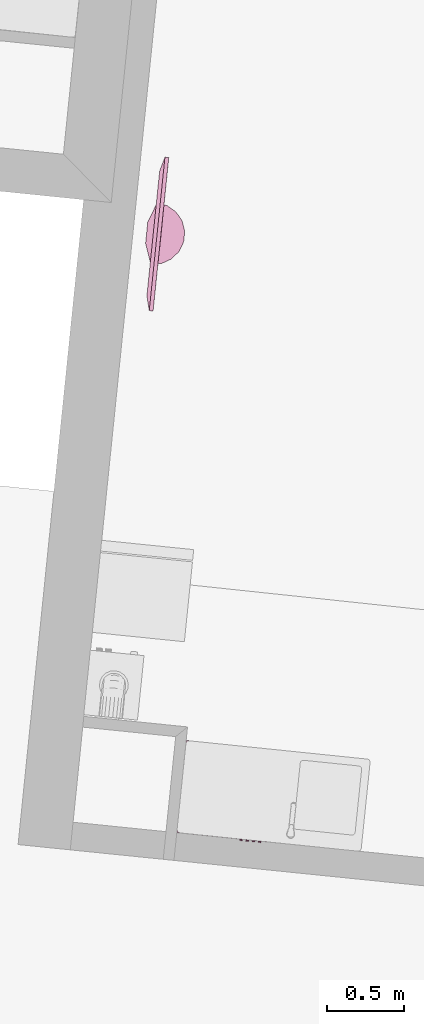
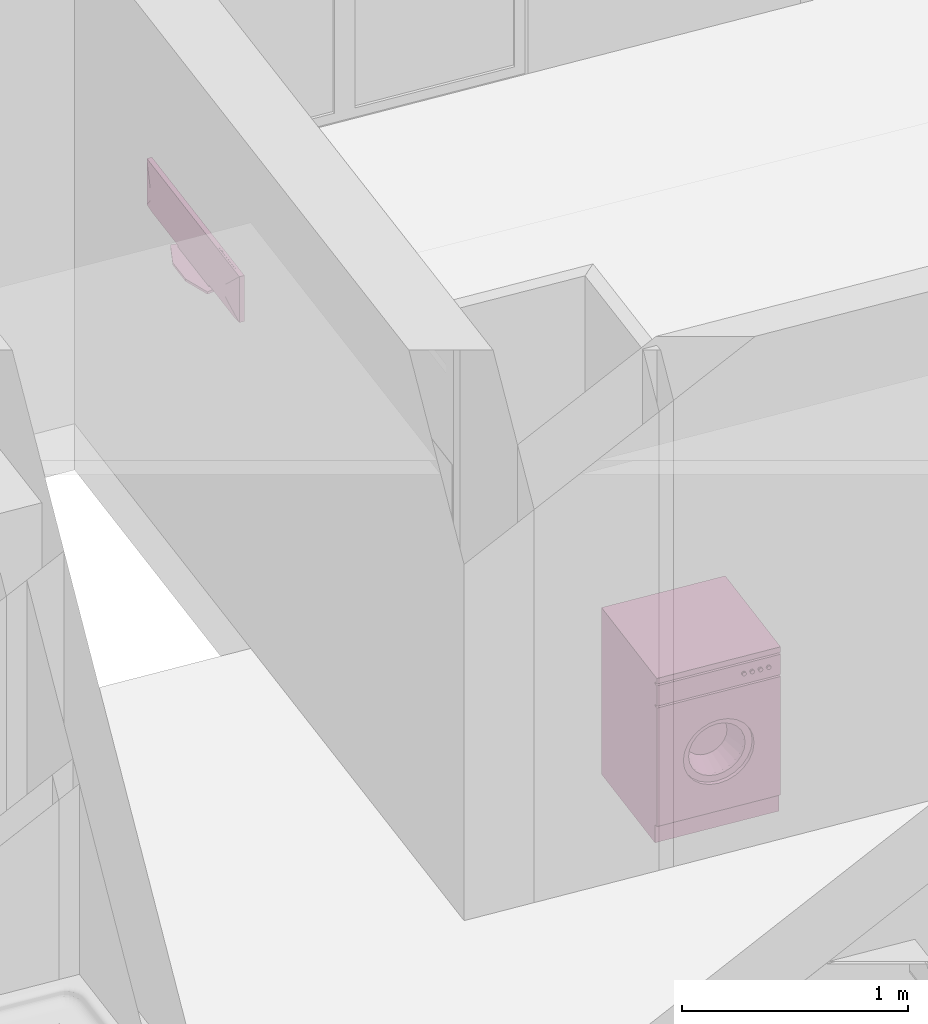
# One storey, part 131 of 164: 2 furnishings.
"""IFC2X3 building model written with IfcOpenShell, lengths in millimetres."""

import ifcopenshell
import ifcopenshell.guid

model = None  # the IFC model being written
_history = None  # IfcOwnerHistory: only IFC2X3 demands one
_inside = {}  # id of a spatial element -> (the spatial element, [elements in it])
_under = {}  # id of a project, library or spatial element -> (it, [spatial elements below it])
_declared = {}  # id of a project -> (the project, [libraries it declares])
_typed = {}  # id of a type object -> (the type object, [elements of that type])
_made_of = {}  # id of a material, layer set ... -> (it, [elements and type objects made of it])


def new_model(schema):
    """Start an empty IFC model of exactly this schema.

    Asked for "IFC4X3", IfcOpenShell would pick the latest addendum, in which some entities
    have other attributes; the version numbers below select the first issue.
    IFC2X3 requires an IfcOwnerHistory on every rooted entity: one is made here for all.
    """
    global model, _history
    if schema == "IFC4X3":
        model = ifcopenshell.file(schema_version=(4, 3, 0, 0))
    else:
        model = ifcopenshell.file(schema=schema)
    _inside.clear()
    _under.clear()
    _declared.clear()
    _typed.clear()
    _made_of.clear()
    _history = None
    if model.schema == "IFC2X3":
        org = make("IfcOrganization", Name="unknown")
        user = make(
            "IfcPersonAndOrganization",
            ThePerson=make("IfcPerson", FamilyName="unknown"),
            TheOrganization=org,
        )
        app = make(
            "IfcApplication",
            ApplicationDeveloper=org,
            Version="unknown",
            ApplicationFullName="unknown",
            ApplicationIdentifier="unknown",
        )
        _history = make(
            "IfcOwnerHistory",
            OwningUser=user,
            OwningApplication=app,
            ChangeAction="ADDED",
            CreationDate=0,
        )
    return model


def make(cls, **values):
    """One entity of the class cls with the attributes given. An attribute that is None is left unset."""
    return model.create_entity(
        cls, **{name: value for name, value in values.items() if value is not None}
    )


def entity(cls, *values):
    """Any entity or typed value of the class cls, its attributes in the order of the schema. None: left unset."""
    e = model.create_entity(cls)
    for i, value in enumerate(values):
        if value is not None:
            e[i] = value
    return e


def rooted(cls, **values):
    """An entity with a GlobalId (a new one), such as an element, a storey or a relation."""
    return make(cls, GlobalId=ifcopenshell.guid.new(), OwnerHistory=_history, **values)


def si_unit(unit_type, name, prefix=None):
    """IfcSIUnit, for example si_unit("LENGTHUNIT", "METRE", prefix="MILLI")."""
    return make("IfcSIUnit", UnitType=unit_type, Prefix=prefix, Name=name)


def converted_unit(unit_type, name, factor, base, dimensions=None, offset=None):
    """IfcConversionBasedUnit, such as the inch: factor (a typed value) times the base unit."""
    return make(
        "IfcConversionBasedUnit"
        if offset is None
        else "IfcConversionBasedUnitWithOffset",
        ConversionOffset=offset,
        Dimensions=None
        if dimensions is None
        else entity("IfcDimensionalExponents", *dimensions),
        UnitType=unit_type,
        Name=name,
        ConversionFactor=make(
            "IfcMeasureWithUnit", ValueComponent=factor, UnitComponent=base
        ),
    )


def derived_unit(unit_type, elements):
    """IfcDerivedUnit: a product of units, each with its exponent."""
    return make(
        "IfcDerivedUnit",
        Elements=[
            make("IfcDerivedUnitElement", Unit=unit, Exponent=power)
            for unit, power in elements
        ],
        UnitType=unit_type,
    )


def money_unit(currency):
    """IfcMonetaryUnit."""
    return make("IfcMonetaryUnit", Currency=currency)


def assignment(units):
    """IfcUnitAssignment: the units of a project."""
    return None if units is None else make("IfcUnitAssignment", Units=units)


def point(xyz):
    """IfcCartesianPoint."""
    return None if xyz is None else make("IfcCartesianPoint", Coordinates=xyz)


def direction(xyz):
    """IfcDirection."""
    return None if xyz is None else make("IfcDirection", DirectionRatios=xyz)


def frame(location, z_axis=None, x_axis=None):
    """IfcAxis2Placement3D, a coordinate frame: its origin and axes. An axis left out is left unset."""
    return make(
        "IfcAxis2Placement3D",
        Location=point(location),
        Axis=direction(z_axis),
        RefDirection=direction(x_axis),
    )


def origin_with_axes():
    """The frame at (0, 0, 0) with the z axis (0, 0, 1) and the x axis (1, 0, 0) written out."""
    return frame((0.0, 0.0, 0.0), z_axis=(0.0, 0.0, 1.0), x_axis=(1.0, 0.0, 0.0))


def place(relative_to, where):
    """IfcLocalPlacement: puts the frame where relative to a parent placement (None: the world)."""
    return make(
        "IfcLocalPlacement", PlacementRelTo=relative_to, RelativePlacement=where
    )


def context(
    kind, dimensions, precision=None, world=None, true_north=None, identifier=None
):
    """IfcGeometricRepresentationContext, for example the 3D "Model" context."""
    return make(
        "IfcGeometricRepresentationContext",
        ContextIdentifier=identifier,
        ContextType=kind,
        CoordinateSpaceDimension=dimensions,
        Precision=precision,
        WorldCoordinateSystem=world,
        TrueNorth=true_north,
    )


def subcontext(parent, identifier, kind, view, scale=None):
    """IfcGeometricRepresentationSubContext, for example "Body" below "Model"."""
    return make(
        "IfcGeometricRepresentationSubContext",
        ContextIdentifier=identifier,
        ContextType=kind,
        ParentContext=parent,
        TargetScale=scale,
        TargetView=view,
    )


def project(units=None, contexts=None):
    """IfcProject with its units and contexts."""
    return rooted(
        "IfcProject",
        Name="project",
        RepresentationContexts=contexts,
        UnitsInContext=assignment(units),
    )


def spatial(cls, under=None, at=None, **own):
    """A site, building, storey or space (cls), placed at a placement, below another one or the project."""
    s = rooted(cls, ObjectPlacement=at, **own)
    if under is not None:
        _under.setdefault(under.id(), (under, []))[1].append(s)
    return s


def faces_of(points, faces, orient=None, outer=None):
    """IfcFace entities. A face is a list of loops; a loop is a list of indices into points, from 0.

    orient and outer hold one flag for each loop. By default every Orientation is true, the
    first loop of a face is its IfcFaceOuterBound and the others are IfcFaceBound.
    """
    made = []
    for i, loops in enumerate(faces):
        bounds = []
        for j, loop in enumerate(loops):
            is_outer = j == 0 if outer is None else outer[i][j]
            bounds.append(
                make(
                    "IfcFaceOuterBound" if is_outer else "IfcFaceBound",
                    Bound=make("IfcPolyLoop", Polygon=[points[k] for k in loop]),
                    Orientation=True if orient is None else orient[i][j],
                )
            )
        made.append(make("IfcFace", Bounds=bounds))
    return made


def open_shell(faces, orient=None, outer=None):
    """The faces of one IfcOpenShell. surface_model builds it on its shared points."""
    return ("IfcOpenShell", faces, orient, outer)


def faceted_brep(points, faces, orient=None, outer=None, voids=None):
    """IfcFacetedBrep: a solid bounded by flat faces; with voids (closed shells), ...WithVoids."""
    shared = [point(p) for p in points]
    hull = make("IfcClosedShell", CfsFaces=faces_of(shared, faces, orient, outer))
    if voids is None:
        return make("IfcFacetedBrep", Outer=hull)
    return make(
        "IfcFacetedBrepWithVoids",
        Outer=hull,
        Voids=[
            make(cls, CfsFaces=faces_of(shared, fs, o, b)) for cls, fs, o, b in voids
        ],
    )


def surface_model(cls, points, shells):
    """IfcFaceBasedSurfaceModel or IfcShellBasedSurfaceModel (cls): surfaces that need not close."""
    shared = [point(p) for p in points]
    made = [make(c, CfsFaces=faces_of(shared, fs, o, b)) for c, fs, o, b in shells]
    if cls == "IfcFaceBasedSurfaceModel":
        return make(cls, FbsmFaces=made)
    return make(cls, SbsmBoundary=made)


def shape(context_of_items, identifier, shape_type, items):
    """IfcShapeRepresentation: the items that make up one representation, for example the "Body"."""
    return make(
        "IfcShapeRepresentation",
        ContextOfItems=context_of_items,
        RepresentationIdentifier=identifier,
        RepresentationType=shape_type,
        Items=items,
    )


def source(mapping_origin, context_of_items, identifier, shape_type, items):
    """IfcRepresentationMap: a shape defined once, which mapped items show again and again."""
    return make(
        "IfcRepresentationMap",
        MappingOrigin=mapping_origin,
        MappedRepresentation=shape(context_of_items, identifier, shape_type, items),
    )


def transform(
    local_origin,
    x_axis=None,
    y_axis=None,
    z_axis=None,
    scale=None,
    scale2=None,
    scale3=None,
    uniform=True,
):
    """IfcCartesianTransformationOperator3D, or its non-uniform kind. x_axis, y_axis, z_axis: its Axis1, 2, 3."""
    if uniform:
        return make(
            "IfcCartesianTransformationOperator3D",
            Axis1=direction(x_axis),
            Axis2=direction(y_axis),
            LocalOrigin=point(local_origin),
            Scale=scale,
            Axis3=direction(z_axis),
        )
    return make(
        "IfcCartesianTransformationOperator3DnonUniform",
        Axis1=direction(x_axis),
        Axis2=direction(y_axis),
        LocalOrigin=point(local_origin),
        Scale=scale,
        Axis3=direction(z_axis),
        Scale2=scale2,
        Scale3=scale3,
    )


def mapped(mapping_source, mapping_target):
    """IfcMappedItem: shows the shape of a source again, moved by a transform."""
    return make(
        "IfcMappedItem", MappingSource=mapping_source, MappingTarget=mapping_target
    )


def made_of(thing, what):
    """Note that an element or type object is made of a material, layer set ...; save() writes the relation."""
    if what is not None:
        _made_of.setdefault(what.id(), (what, []))[1].append(thing)
    return thing


def type_object(cls, material=None, **own):
    """A type object (cls), such as IfcWallType, which elements share."""
    return made_of(rooted(cls, **own), material)


def element(
    cls,
    number,
    at=None,
    inside=None,
    cuts=None,
    type_object=None,
    material=None,
    context=None,
    identifier="Body",
    shape_type=None,
    held_by="IfcProductDefinitionShape",
    body=None,
    shapes=None,
    **own,
):
    """One element of the class cls, such as IfcWall. Its Tag is "e" and its number.

    at: its placement. inside: the storey or other place that contains it. cuts: it is an
    opening in that element (IfcRelVoidsElement). A single representation is given by context,
    identifier, shape_type and body (its items); several are given by shapes. held_by: the class
    of the entity that holds the representations. save() writes the other relations.
    """
    e = rooted(cls, Tag="e%d" % number, ObjectPlacement=at, **own)
    if body is not None:
        shapes = [shape(context, identifier, shape_type, body)]
    if shapes is not None:
        e.Representation = make(held_by, Representations=shapes)
    if inside is not None:
        _inside.setdefault(inside.id(), (inside, []))[1].append(e)
    if cuts is not None:
        rooted(
            "IfcRelVoidsElement", RelatingBuildingElement=cuts, RelatedOpeningElement=e
        )
    if type_object is not None:
        _typed.setdefault(type_object.id(), (type_object, []))[1].append(e)
    return made_of(e, material)


def aggregate(whole, parts):
    """IfcRelAggregates: a whole, such as a stair, and the parts it consists of."""
    return rooted("IfcRelAggregates", RelatingObject=whole, RelatedObjects=parts)


def save(model, path):
    """Write the relations noted so far, then the file.

    IfcRelAggregates (storeys below a building ...), IfcRelContainedInSpatialStructure (elements
    in a storey), IfcRelDefinesByType, IfcRelAssociatesMaterial and IfcRelDeclares: one each for
    every whole, place, type object, material and project.
    """
    for whole, parts in _under.values():
        aggregate(whole, parts)
    for where, things in _inside.values():
        rooted(
            "IfcRelContainedInSpatialStructure",
            RelatedElements=things,
            RelatingStructure=where,
        )
    for kind, things in _typed.values():
        rooted("IfcRelDefinesByType", RelatedObjects=things, RelatingType=kind)
    for what, things in _made_of.values():
        rooted("IfcRelAssociatesMaterial", RelatedObjects=things, RelatingMaterial=what)
    for by, libraries in _declared.values():
        rooted("IfcRelDeclares", RelatingContext=by, RelatedDefinitions=libraries)
    model.write(path)


model = new_model("IFC2X3")

# Units and contexts
model_context = context("Model", 3, precision=0.01, world=origin_with_axes(), true_north=direction((0.0, 1.0)))
body_context = subcontext(model_context, "Body", "Model", "MODEL_VIEW")
ifc_project = project(units=[si_unit("LENGTHUNIT", "METRE", prefix="MILLI"), si_unit("AREAUNIT", "SQUARE_METRE"), si_unit("VOLUMEUNIT", "CUBIC_METRE"), converted_unit("PLANEANGLEUNIT", "DEGREE", entity("IfcPlaneAngleMeasure", 0.0174532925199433), si_unit("PLANEANGLEUNIT", "RADIAN"), dimensions=[0, 0, 0, 0, 0, 0, 0]), money_unit("USD"), converted_unit("TIMEUNIT", "Year", entity("IfcTimeMeasure", 31557600.0), si_unit("TIMEUNIT", "SECOND"), dimensions=[0, 0, 1, 0, 0, 0, 0]), si_unit("MASSUNIT", "GRAM", prefix="KILO"), si_unit("THERMODYNAMICTEMPERATUREUNIT", "DEGREE_CELSIUS"), si_unit("LUMINOUSINTENSITYUNIT", "LUMEN"), si_unit("ENERGYUNIT", "JOULE", prefix="MEGA"), derived_unit("THERMALCONDUCTANCEUNIT", [(si_unit("POWERUNIT", "WATT"), 1), (si_unit("LENGTHUNIT", "METRE"), -1), (si_unit("THERMODYNAMICTEMPERATUREUNIT", "KELVIN"), -1)]), derived_unit("SPECIFICHEATCAPACITYUNIT", [(si_unit("ENERGYUNIT", "JOULE"), 1), (si_unit("MASSUNIT", "GRAM", prefix="KILO"), -1), (si_unit("THERMODYNAMICTEMPERATUREUNIT", "KELVIN"), -1)]), derived_unit("MASSDENSITYUNIT", [(si_unit("MASSUNIT", "GRAM", prefix="KILO"), 1), (si_unit("VOLUMEUNIT", "CUBIC_METRE"), -1)])], contexts=[model_context])

# Site, building, storey
site_placement = place(None, origin_with_axes())
site = spatial("IfcSite", under=ifc_project, at=site_placement, Name="Site", CompositionType="ELEMENT")
building_placement = place(site_placement, origin_with_axes())
building = spatial("IfcBuilding", under=site, at=building_placement, Name="Bâtiment", CompositionType="ELEMENT")
storey_placement = place(building_placement, frame((0.0, 0.0, 5750.0), z_axis=(0.0, 0.0, 1.0), x_axis=(1.0, 0.0, 0.0)))
storey = spatial("IfcBuildingStorey", under=building, at=storey_placement, Name="Etage1", CompositionType="ELEMENT", Elevation=5750.0)

# Furnishings
furnishing_element_type_1 = type_object("IfcFurnishingElementType", Name="Machine à laver")
shared_shape_1 = source(origin_with_axes(), body_context, "Body", "SurfaceModel", [
    faceted_brep([(0.0, 20.0, 100.0), (0.0, 0.0, 100.0), (-600.0, 0.0, 100.0), (-600.0, 20.0, 100.0), (0.0, 20.00000000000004, 740.0), (0.0, 0.0, 740.0), (-600.0, 0.0, 740.0), (-471.4285714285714, 0.0, 420.0000000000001), (-465.5872845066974, 0.0, 464.3689791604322), (-448.4614977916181, 0.0, 505.7142857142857), (-421.2183053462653, 0.0, 541.2183053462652), (-385.7142857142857, 0.0, 568.4614977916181), (-344.3689791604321, 0.0, 585.5872845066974), (-300.0000000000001, 0.0, 591.4285714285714), (-255.6310208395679, 0.0, 585.5872845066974), (-214.2857142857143, 0.0, 568.4614977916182), (-178.7816946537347, 0.0, 541.2183053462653), (-151.5385022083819, 0.0, 505.7142857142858), (-134.4127154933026, 0.0, 464.3689791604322), (-128.5714285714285, 0.0, 420.0000000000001), (-134.4127154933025, 0.0, 375.6310208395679), (-151.5385022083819, 0.0, 334.2857142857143), (-178.7816946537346, 0.0, 298.7816946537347), (-214.2857142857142, 0.0, 271.5385022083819), (-255.6310208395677, 0.0, 254.4127154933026), (-299.9999999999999, 0.0, 248.5714285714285), (-344.368979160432, 0.0, 254.4127154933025), (-385.7142857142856, 0.0, 271.5385022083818), (-421.2183053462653, 0.0, 298.7816946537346), (-448.4614977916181, 0.0, 334.2857142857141), (-465.5872845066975, 0.0, 375.6310208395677), (-600.0, 20.00000000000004, 740.0), (-471.4285714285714, 20.00000000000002, 420.0000000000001), (-465.5872845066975, 20.00000000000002, 375.6310208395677), (-448.4614977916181, 20.00000000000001, 334.2857142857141), (-421.2183053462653, 20.00000000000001, 298.7816946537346), (-385.7142857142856, 20.00000000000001, 271.5385022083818), (-344.368979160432, 20.00000000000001, 254.4127154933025), (-299.9999999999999, 20.00000000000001, 248.5714285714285), (-255.6310208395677, 20.00000000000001, 254.4127154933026), (-214.2857142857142, 20.00000000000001, 271.5385022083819), (-178.7816946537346, 20.00000000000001, 298.7816946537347), (-151.5385022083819, 20.00000000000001, 334.2857142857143), (-134.4127154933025, 20.00000000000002, 375.6310208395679), (-128.5714285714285, 20.00000000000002, 420.0000000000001), (-134.4127154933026, 20.00000000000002, 464.3689791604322), (-151.5385022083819, 20.00000000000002, 505.7142857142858), (-178.7816946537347, 20.00000000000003, 541.2183053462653), (-214.2857142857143, 20.00000000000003, 568.4614977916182), (-255.6310208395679, 20.00000000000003, 585.5872845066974), (-300.0000000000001, 20.00000000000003, 591.4285714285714), (-344.3689791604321, 20.00000000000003, 585.5872845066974), (-385.7142857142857, 20.00000000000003, 568.4614977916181), (-421.2183053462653, 20.00000000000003, 541.2183053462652), (-448.4614977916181, 20.00000000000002, 505.7142857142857), (-465.5872845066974, 20.00000000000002, 464.3689791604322)], [[[0, 1, 2, 3]], [[4, 5, 1, 0]], [[1, 5, 6, 2], [7, 8, 9, 10, 11, 12, 13, 14, 15, 16, 17, 18, 19, 20, 21, 22, 23, 24, 25, 26, 27, 28, 29, 30]], [[3, 2, 6, 31]], [[0, 3, 31, 4], [32, 33, 34, 35, 36, 37, 38, 39, 40, 41, 42, 43, 44, 45, 46, 47, 48, 49, 50, 51, 52, 53, 54, 55]], [[31, 6, 5, 4]], [[55, 8, 7, 32]], [[54, 9, 8, 55]], [[53, 10, 9, 54]], [[52, 11, 10, 53]], [[51, 12, 11, 52]], [[50, 13, 12, 51]], [[49, 14, 13, 50]], [[48, 15, 14, 49]], [[47, 16, 15, 48]], [[46, 17, 16, 47]], [[45, 18, 17, 46]], [[44, 19, 18, 45]], [[43, 20, 19, 44]], [[42, 21, 20, 43]], [[41, 22, 21, 42]], [[40, 23, 22, 41]], [[39, 24, 23, 40]], [[38, 25, 24, 39]], [[37, 26, 25, 38]], [[36, 27, 26, 37]], [[35, 28, 27, 36]], [[34, 29, 28, 35]], [[33, 30, 29, 34]], [[32, 7, 30, 33]]]),
    faceted_brep([(-471.4285714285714, 40.00000000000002, 420.0000000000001), (-471.4285714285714, 20.00000000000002, 420.0000000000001), (-465.5872845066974, 20.00000000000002, 464.3689791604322), (-465.5872845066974, 40.00000000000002, 464.3689791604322), (-465.5872845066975, 40.00000000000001, 375.6310208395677), (-465.5872845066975, 20.00000000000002, 375.6310208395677), (-448.4614977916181, 20.00000000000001, 334.2857142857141), (-421.2183053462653, 20.00000000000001, 298.7816946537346), (-385.7142857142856, 20.00000000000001, 271.5385022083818), (-344.368979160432, 20.00000000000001, 254.4127154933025), (-299.9999999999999, 20.00000000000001, 248.5714285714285), (-255.6310208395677, 20.00000000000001, 254.4127154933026), (-214.2857142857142, 20.00000000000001, 271.5385022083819), (-178.7816946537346, 20.00000000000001, 298.7816946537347), (-151.5385022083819, 20.00000000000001, 334.2857142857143), (-134.4127154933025, 20.00000000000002, 375.6310208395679), (-128.5714285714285, 20.00000000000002, 420.0000000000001), (-134.4127154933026, 20.00000000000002, 464.3689791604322), (-151.5385022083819, 20.00000000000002, 505.7142857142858), (-178.7816946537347, 20.00000000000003, 541.2183053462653), (-214.2857142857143, 20.00000000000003, 568.4614977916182), (-255.6310208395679, 20.00000000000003, 585.5872845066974), (-300.0000000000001, 20.00000000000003, 591.4285714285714), (-344.3689791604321, 20.00000000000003, 585.5872845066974), (-385.7142857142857, 20.00000000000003, 568.4614977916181), (-421.2183053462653, 20.00000000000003, 541.2183053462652), (-448.4614977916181, 20.00000000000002, 505.7142857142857), (-437.1428571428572, 20.00000000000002, 420.0000000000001), (-432.469827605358, 20.00000000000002, 455.4951833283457), (-418.7691982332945, 20.00000000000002, 488.5714285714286), (-396.9746442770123, 20.00000000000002, 516.9746442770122), (-368.5714285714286, 20.00000000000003, 538.7691982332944), (-335.4951833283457, 20.00000000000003, 552.469827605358), (-300.0000000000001, 20.00000000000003, 557.1428571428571), (-264.5048166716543, 20.00000000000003, 552.469827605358), (-231.4285714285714, 20.00000000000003, 538.7691982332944), (-203.0253557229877, 20.00000000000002, 516.9746442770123), (-181.2308017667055, 20.00000000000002, 488.5714285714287), (-167.530172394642, 20.00000000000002, 455.4951833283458), (-162.8571428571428, 20.00000000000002, 420.0000000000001), (-167.530172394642, 20.00000000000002, 384.5048166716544), (-181.2308017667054, 20.00000000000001, 351.4285714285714), (-203.0253557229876, 20.00000000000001, 323.0253557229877), (-231.4285714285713, 20.00000000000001, 301.2308017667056), (-264.5048166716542, 20.00000000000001, 287.530172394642), (-299.9999999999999, 20.00000000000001, 282.8571428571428), (-335.4951833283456, 20.00000000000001, 287.530172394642), (-368.5714285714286, 20.00000000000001, 301.2308017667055), (-396.9746442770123, 20.00000000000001, 323.0253557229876), (-418.7691982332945, 20.00000000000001, 351.4285714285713), (-432.469827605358, 20.00000000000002, 384.5048166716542), (-448.4614977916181, 40.00000000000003, 505.7142857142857), (-421.2183053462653, 40.00000000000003, 541.2183053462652), (-385.7142857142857, 40.00000000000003, 568.4614977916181), (-344.3689791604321, 40.00000000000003, 585.5872845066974), (-300.0000000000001, 40.00000000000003, 591.4285714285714), (-255.6310208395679, 40.00000000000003, 585.5872845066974), (-214.2857142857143, 40.00000000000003, 568.4614977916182), (-178.7816946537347, 40.00000000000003, 541.2183053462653), (-151.5385022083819, 40.00000000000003, 505.7142857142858), (-134.4127154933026, 40.00000000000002, 464.3689791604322), (-128.5714285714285, 40.00000000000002, 420.0000000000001), (-134.4127154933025, 40.00000000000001, 375.6310208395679), (-151.5385022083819, 40.00000000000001, 334.2857142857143), (-178.7816946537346, 40.00000000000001, 298.7816946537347), (-214.2857142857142, 40.00000000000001, 271.5385022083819), (-255.6310208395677, 40.00000000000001, 254.4127154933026), (-299.9999999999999, 40.00000000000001, 248.5714285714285), (-344.368979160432, 40.00000000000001, 254.4127154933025), (-385.7142857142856, 40.00000000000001, 271.5385022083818), (-421.2183053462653, 40.00000000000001, 298.7816946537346), (-448.4614977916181, 40.00000000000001, 334.2857142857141), (-437.1428571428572, 40.00000000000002, 420.0000000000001), (-432.469827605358, 40.00000000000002, 384.5048166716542), (-418.7691982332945, 40.00000000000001, 351.4285714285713), (-396.9746442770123, 40.00000000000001, 323.0253557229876), (-368.5714285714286, 40.00000000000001, 301.2308017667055), (-335.4951833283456, 40.00000000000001, 287.530172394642), (-299.9999999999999, 40.00000000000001, 282.8571428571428), (-264.5048166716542, 40.00000000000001, 287.530172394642), (-231.4285714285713, 40.00000000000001, 301.2308017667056), (-203.0253557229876, 40.00000000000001, 323.0253557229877), (-181.2308017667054, 40.00000000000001, 351.4285714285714), (-167.530172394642, 40.00000000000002, 384.5048166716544), (-162.8571428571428, 40.00000000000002, 420.0000000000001), (-167.530172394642, 40.00000000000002, 455.4951833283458), (-181.2308017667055, 40.00000000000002, 488.5714285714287), (-203.0253557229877, 40.00000000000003, 516.9746442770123), (-231.4285714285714, 40.00000000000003, 538.7691982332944), (-264.5048166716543, 40.00000000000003, 552.469827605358), (-300.0000000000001, 40.00000000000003, 557.1428571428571), (-335.4951833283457, 40.00000000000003, 552.469827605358), (-368.5714285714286, 40.00000000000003, 538.7691982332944), (-396.9746442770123, 40.00000000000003, 516.9746442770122), (-418.7691982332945, 40.00000000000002, 488.5714285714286), (-432.469827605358, 40.00000000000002, 455.4951833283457)], [[[0, 1, 2, 3]], [[4, 5, 1, 0]], [[1, 5, 6, 7, 8, 9, 10, 11, 12, 13, 14, 15, 16, 17, 18, 19, 20, 21, 22, 23, 24, 25, 26, 2], [27, 28, 29, 30, 31, 32, 33, 34, 35, 36, 37, 38, 39, 40, 41, 42, 43, 44, 45, 46, 47, 48, 49, 50]], [[3, 2, 26, 51]], [[0, 3, 51, 52, 53, 54, 55, 56, 57, 58, 59, 60, 61, 62, 63, 64, 65, 66, 67, 68, 69, 70, 71, 4], [72, 73, 74, 75, 76, 77, 78, 79, 80, 81, 82, 83, 84, 85, 86, 87, 88, 89, 90, 91, 92, 93, 94, 95]], [[71, 6, 5, 4]], [[70, 7, 6, 71]], [[69, 8, 7, 70]], [[68, 9, 8, 69]], [[67, 10, 9, 68]], [[66, 11, 10, 67]], [[65, 12, 11, 66]], [[64, 13, 12, 65]], [[63, 14, 13, 64]], [[62, 15, 14, 63]], [[61, 16, 15, 62]], [[60, 17, 16, 61]], [[59, 18, 17, 60]], [[58, 19, 18, 59]], [[57, 20, 19, 58]], [[56, 21, 20, 57]], [[55, 22, 21, 56]], [[54, 23, 22, 55]], [[53, 24, 23, 54]], [[52, 25, 24, 53]], [[51, 26, 25, 52]], [[95, 28, 27, 72]], [[94, 29, 28, 95]], [[93, 30, 29, 94]], [[92, 31, 30, 93]], [[91, 32, 31, 92]], [[90, 33, 32, 91]], [[89, 34, 33, 90]], [[88, 35, 34, 89]], [[87, 36, 35, 88]], [[86, 37, 36, 87]], [[85, 38, 37, 86]], [[84, 39, 38, 85]], [[83, 40, 39, 84]], [[82, 41, 40, 83]], [[81, 42, 41, 82]], [[80, 43, 42, 81]], [[79, 44, 43, 80]], [[78, 45, 44, 79]], [[77, 46, 45, 78]], [[76, 47, 46, 77]], [[75, 48, 47, 76]], [[74, 49, 48, 75]], [[73, 50, 49, 74]], [[72, 27, 50, 73]]]),
    surface_model("IfcShellBasedSurfaceModel", [(-264.5048166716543, 39.99999999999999, 552.469827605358), (-273.3786125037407, 140.0, 519.3523707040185), (-300.0, 140.0, 522.8571428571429), (-300.0, 39.99999999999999, 557.1428571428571), (-231.4285714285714, 39.99999999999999, 538.7691982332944), (-248.5714285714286, 140.0, 509.0768986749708), (-227.2690167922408, 140.0, 492.7309832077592), (-210.9231013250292, 140.0, 471.4285714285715), (-200.6476292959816, 140.0, 446.6213874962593), (-197.1428571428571, 140.0, 420.0000000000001), (-200.6476292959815, 140.0, 393.3786125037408), (-210.9231013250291, 140.0, 368.5714285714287), (-227.2690167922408, 140.0, 347.2690167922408), (-248.5714285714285, 140.0, 330.9231013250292), (-273.3786125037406, 140.0, 320.6476292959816), (-299.9999999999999, 140.0, 317.1428571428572), (-326.6213874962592, 140.0, 320.6476292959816), (-351.4285714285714, 140.0, 330.9231013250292), (-372.7309832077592, 140.0, 347.2690167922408), (-389.0768986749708, 140.0, 368.5714285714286), (-399.3523707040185, 140.0, 393.3786125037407), (-402.8571428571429, 140.0, 420.0), (-399.3523707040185, 140.0, 446.6213874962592), (-389.0768986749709, 140.0, 471.4285714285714), (-372.7309832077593, 140.0, 492.7309832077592), (-351.4285714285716, 140.0, 509.0768986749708), (-326.6213874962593, 140.0, 519.3523707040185), (-335.4951833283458, 39.99999999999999, 552.469827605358), (-203.0253557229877, 39.99999999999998, 516.9746442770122), (-181.2308017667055, 39.99999999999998, 488.5714285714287), (-167.5301723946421, 39.99999999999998, 455.4951833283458), (-162.8571428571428, 39.99999999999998, 420.0000000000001), (-167.530172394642, 39.99999999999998, 384.5048166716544), (-181.2308017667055, 39.99999999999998, 351.4285714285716), (-203.0253557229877, 39.99999999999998, 323.0253557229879), (-231.4285714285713, 39.99999999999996, 301.2308017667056), (-264.5048166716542, 39.99999999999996, 287.5301723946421), (-299.9999999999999, 39.99999999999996, 282.8571428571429), (-335.4951833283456, 39.99999999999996, 287.5301723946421), (-368.5714285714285, 39.99999999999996, 301.2308017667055), (-396.9746442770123, 39.99999999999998, 323.0253557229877), (-418.7691982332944, 39.99999999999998, 351.4285714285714), (-432.469827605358, 39.99999999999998, 384.5048166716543), (-437.1428571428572, 39.99999999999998, 419.9999999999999), (-432.469827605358, 39.99999999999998, 455.4951833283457), (-418.7691982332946, 39.99999999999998, 488.5714285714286), (-396.9746442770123, 39.99999999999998, 516.9746442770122), (-368.5714285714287, 39.99999999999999, 538.7691982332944)], [open_shell([[[0, 1, 2, 3]], [[4, 5, 1, 0]], [[2, 1, 5, 6, 7, 8, 9, 10, 11, 12, 13, 14, 15, 16, 17, 18, 19, 20, 21, 22, 23, 24, 25, 26]], [[3, 2, 26, 27]], [[28, 6, 5, 4]], [[29, 7, 6, 28]], [[30, 8, 7, 29]], [[31, 9, 8, 30]], [[32, 10, 9, 31]], [[33, 11, 10, 32]], [[34, 12, 11, 33]], [[35, 13, 12, 34]], [[36, 14, 13, 35]], [[37, 15, 14, 36]], [[38, 16, 15, 37]], [[39, 17, 16, 38]], [[40, 18, 17, 39]], [[41, 19, 18, 40]], [[42, 20, 19, 41]], [[43, 21, 20, 42]], [[44, 22, 21, 43]], [[45, 23, 22, 44]], [[46, 24, 23, 45]], [[47, 25, 24, 46]], [[27, 26, 25, 47]]])]),
    surface_model("IfcShellBasedSurfaceModel", [(0.0, 20.0, 100.0), (0.0, 600.0, 99.99999999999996), (0.0, 600.0, 870.0), (0.0, 20.00000000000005, 870.0)], [open_shell([[[0, 1, 2, 3]]])]),
    surface_model("IfcShellBasedSurfaceModel", [(-600.0, 19.99999999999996, 100.0), (-600.0, 599.9999999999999, 99.99999999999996), (-600.0, 599.9999999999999, 870.0), (-600.0, 20.00000000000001, 870.0)], [open_shell([[[0, 1, 2, 3]]])]),
    surface_model("IfcShellBasedSurfaceModel", [(0.0, 600.0, 100.0), (-600.0, 600.0, 100.0), (-600.0, 600.0, 870.0), (0.0, 600.0, 870.0)], [open_shell([[[0, 1, 2, 3]]])]),
    faceted_brep([(0.0, 20.0, 0.0), (0.0, 20.0, 100.0), (-600.0, 20.0, 100.0), (-600.0, 20.0, 0.0), (0.0, 600.0, 0.0), (0.0, 600.0, 100.0), (-600.0, 600.0, 100.0), (-600.0, 600.0, 0.0)], [[[0, 1, 2, 3]], [[4, 5, 1, 0]], [[1, 5, 6, 2]], [[3, 2, 6, 7]], [[0, 3, 7, 4]], [[7, 6, 5, 4]]]),
    faceted_brep([(0.0, 20.0, 750.0), (0.0, 0.0, 750.0), (-600.0, 0.0, 750.0), (-600.0, 20.0, 750.0), (0.0, 20.00000000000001, 860.0), (0.0, 0.0, 860.0), (-600.0, 0.0, 860.0), (-600.0, 20.00000000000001, 860.0)], [[[0, 1, 2, 3]], [[4, 5, 1, 0]], [[1, 5, 6, 2]], [[3, 2, 6, 7]], [[0, 3, 7, 4]], [[7, 6, 5, 4]]]),
    surface_model("IfcShellBasedSurfaceModel", [(0.0, 20.0, 740.0), (-600.0, 20.0, 740.0), (-600.0, 20.00000000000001, 870.0), (0.0, 20.00000000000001, 870.0)], [open_shell([[[0, 1, 2, 3]]])]),
    faceted_brep([(0.0, 0.0, 870.0), (0.0, 0.0, 900.0), (-600.0, 0.0, 900.0), (-600.0, 0.0, 870.0), (0.0, 600.0, 870.0), (0.0, 600.0, 900.0), (-600.0, 600.0, 900.0), (-600.0, 600.0, 870.0)], [[[0, 1, 2, 3]], [[4, 5, 1, 0]], [[1, 5, 6, 2]], [[3, 2, 6, 7]], [[0, 3, 7, 4]], [[7, 6, 5, 4]]]),
    faceted_brep([(-68.66025403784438, 0.0, 804.9999999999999), (-69.99999999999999, 0.0, 809.9999999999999), (-68.66025403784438, 0.0, 815.0), (-65.0, 0.0, 818.6602540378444), (-60.0, 0.0, 820.0), (-55.0, 0.0, 818.6602540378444), (-51.33974596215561, 0.0, 815.0), (-49.99999999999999, 0.0, 809.9999999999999), (-51.33974596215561, 0.0, 804.9999999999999), (-54.99999999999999, 0.0, 801.3397459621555), (-59.99999999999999, 0.0, 799.9999999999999), (-64.99999999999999, 0.0, 801.3397459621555), (-68.66025403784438, -10.0, 804.9999999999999), (-69.99999999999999, -10.0, 809.9999999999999), (-68.66025403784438, -10.0, 815.0), (-65.0, -10.0, 818.6602540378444), (-60.0, -10.0, 820.0), (-55.0, -10.0, 818.6602540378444), (-51.33974596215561, -10.0, 815.0), (-49.99999999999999, -10.0, 809.9999999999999), (-51.33974596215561, -10.0, 804.9999999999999), (-54.99999999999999, -10.0, 801.3397459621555), (-59.99999999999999, -10.0, 799.9999999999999), (-64.99999999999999, -10.0, 801.3397459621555)], [[[0, 1, 2, 3, 4, 5, 6, 7, 8, 9, 10, 11]], [[0, 12, 13, 1]], [[1, 13, 14, 2]], [[2, 14, 15, 3]], [[3, 15, 16, 4]], [[4, 16, 17, 5]], [[5, 17, 18, 6]], [[6, 18, 19, 7]], [[7, 19, 20, 8]], [[8, 20, 21, 9]], [[9, 21, 22, 10]], [[10, 22, 23, 11]], [[11, 23, 12, 0]], [[12, 23, 22, 21, 20, 19, 18, 17, 16, 15, 14, 13]]]),
    faceted_brep([(-108.6602540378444, 0.0, 804.9999999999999), (-110.0, 0.0, 809.9999999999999), (-108.6602540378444, 0.0, 815.0), (-105.0, 0.0, 818.6602540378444), (-100.0, 0.0, 820.0), (-95.0, 0.0, 818.6602540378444), (-91.33974596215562, 0.0, 815.0), (-90.00000000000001, 0.0, 809.9999999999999), (-91.33974596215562, 0.0, 804.9999999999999), (-95.0, 0.0, 801.3397459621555), (-99.99999999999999, 0.0, 799.9999999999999), (-105.0, 0.0, 801.3397459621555), (-108.6602540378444, -10.0, 804.9999999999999), (-110.0, -10.0, 809.9999999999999), (-108.6602540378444, -10.0, 815.0), (-105.0, -10.0, 818.6602540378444), (-100.0, -10.0, 820.0), (-95.0, -10.0, 818.6602540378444), (-91.33974596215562, -10.0, 815.0), (-90.00000000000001, -10.0, 809.9999999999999), (-91.33974596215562, -10.0, 804.9999999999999), (-95.0, -10.0, 801.3397459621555), (-99.99999999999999, -10.0, 799.9999999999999), (-105.0, -10.0, 801.3397459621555)], [[[0, 1, 2, 3, 4, 5, 6, 7, 8, 9, 10, 11]], [[0, 12, 13, 1]], [[1, 13, 14, 2]], [[2, 14, 15, 3]], [[3, 15, 16, 4]], [[4, 16, 17, 5]], [[5, 17, 18, 6]], [[6, 18, 19, 7]], [[7, 19, 20, 8]], [[8, 20, 21, 9]], [[9, 21, 22, 10]], [[10, 22, 23, 11]], [[11, 23, 12, 0]], [[12, 23, 22, 21, 20, 19, 18, 17, 16, 15, 14, 13]]]),
    faceted_brep([(-148.6602540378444, 0.0, 804.9999999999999), (-150.0, 0.0, 809.9999999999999), (-148.6602540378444, 0.0, 815.0), (-145.0, 0.0, 818.6602540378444), (-140.0, 0.0, 820.0), (-135.0, 0.0, 818.6602540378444), (-131.3397459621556, 0.0, 815.0), (-130.0, 0.0, 809.9999999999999), (-131.3397459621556, 0.0, 804.9999999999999), (-135.0, 0.0, 801.3397459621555), (-140.0, 0.0, 799.9999999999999), (-145.0, 0.0, 801.3397459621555), (-148.6602540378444, -10.0, 804.9999999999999), (-150.0, -10.0, 809.9999999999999), (-148.6602540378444, -10.0, 815.0), (-145.0, -10.0, 818.6602540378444), (-140.0, -10.0, 820.0), (-135.0, -10.0, 818.6602540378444), (-131.3397459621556, -10.0, 815.0), (-130.0, -10.0, 809.9999999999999), (-131.3397459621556, -10.0, 804.9999999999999), (-135.0, -10.0, 801.3397459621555), (-140.0, -10.0, 799.9999999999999), (-145.0, -10.0, 801.3397459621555)], [[[0, 1, 2, 3, 4, 5, 6, 7, 8, 9, 10, 11]], [[0, 12, 13, 1]], [[1, 13, 14, 2]], [[2, 14, 15, 3]], [[3, 15, 16, 4]], [[4, 16, 17, 5]], [[5, 17, 18, 6]], [[6, 18, 19, 7]], [[7, 19, 20, 8]], [[8, 20, 21, 9]], [[9, 21, 22, 10]], [[10, 22, 23, 11]], [[11, 23, 12, 0]], [[12, 23, 22, 21, 20, 19, 18, 17, 16, 15, 14, 13]]]),
    faceted_brep([(-188.6602540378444, 0.0, 804.9999999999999), (-190.0, 0.0, 809.9999999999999), (-188.6602540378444, 0.0, 815.0), (-185.0, 0.0, 818.6602540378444), (-180.0, 0.0, 820.0), (-175.0, 0.0, 818.6602540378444), (-171.3397459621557, 0.0, 815.0), (-170.0, 0.0, 809.9999999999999), (-171.3397459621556, 0.0, 804.9999999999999), (-175.0, 0.0, 801.3397459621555), (-180.0, 0.0, 799.9999999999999), (-185.0, 0.0, 801.3397459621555), (-188.6602540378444, -10.0, 804.9999999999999), (-190.0, -10.0, 809.9999999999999), (-188.6602540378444, -10.0, 815.0), (-185.0, -10.0, 818.6602540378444), (-180.0, -10.0, 820.0), (-175.0, -10.0, 818.6602540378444), (-171.3397459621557, -10.0, 815.0), (-170.0, -10.0, 809.9999999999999), (-171.3397459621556, -10.0, 804.9999999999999), (-175.0, -10.0, 801.3397459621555), (-180.0, -10.0, 799.9999999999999), (-185.0, -10.0, 801.3397459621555)], [[[0, 1, 2, 3, 4, 5, 6, 7, 8, 9, 10, 11]], [[0, 12, 13, 1]], [[1, 13, 14, 2]], [[2, 14, 15, 3]], [[3, 15, 16, 4]], [[4, 16, 17, 5]], [[5, 17, 18, 6]], [[6, 18, 19, 7]], [[7, 19, 20, 8]], [[8, 20, 21, 9]], [[9, 21, 22, 10]], [[10, 22, 23, 11]], [[11, 23, 12, 0]], [[12, 23, 22, 21, 20, 19, 18, 17, 16, 15, 14, 13]]]),
])
furnishing_1_placement = place(storey_placement, frame((2227182.654550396, -612455.5588728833, 0.0), z_axis=(0.0, 0.0, 1.0), x_axis=(0.9946434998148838, -0.1033649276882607, 0.0)))
element("IfcFurnishingElement", 1, at=furnishing_1_placement, inside=storey, type_object=furnishing_element_type_1, Name="Obj.-019", context=body_context, shape_type="MappedRepresentation", body=[
    mapped(shared_shape_1, transform((0.0, 0.0, 0.0))),
])
furnishing_element_type_2 = type_object("IfcFurnishingElementType", Name="Ecran TV plasma")
shared_shape_2 = source(origin_with_axes(), body_context, "Body", "Brep", [
    faceted_brep([(-300.0, 45.45454545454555, 0.0), (-300.0, 45.45454545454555, 12.72727272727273), (-311.9952377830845, -22.76722074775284, 12.72727272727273), (-311.9952377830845, -22.76722074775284, 0.0), (-300.362869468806, 45.66379498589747, 0.0), (-300.362869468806, 45.66379498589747, 12.72727272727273), (-430.8157560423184, 93.01588086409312, 12.72727272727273), (-569.5967719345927, 92.94321528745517, 12.72727272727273), (-700.0000000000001, 45.45454545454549, 12.72727272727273), (-699.9923846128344, 43.70923835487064, 12.72727272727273), (-687.402263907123, -24.40525330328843, 12.72727272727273), (-652.3327960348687, -84.13989598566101, 12.72727272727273), (-598.9906470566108, -128.3293772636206, 12.72727272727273), (-533.7743345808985, -151.6730637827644, 12.72727272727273), (-464.5067103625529, -151.3708248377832, 12.72727272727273), (-399.4965906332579, -127.4589147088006, 12.72727272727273), (-346.5420938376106, -82.80562387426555, 12.72727272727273), (-346.5420938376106, -82.80562387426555, 0.0), (-399.4965906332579, -127.4589147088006, 0.0), (-464.5067103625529, -151.3708248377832, 0.0), (-533.7743345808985, -151.6730637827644, 0.0), (-598.9906470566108, -128.3293772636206, 0.0), (-652.3327960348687, -84.13989598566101, 0.0), (-687.402263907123, -24.40525330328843, 0.0), (-699.9923846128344, 43.70923835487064, 0.0), (-700.0000000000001, 45.45454545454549, 0.0), (-569.5967719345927, 92.94321528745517, 0.0), (-430.8157560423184, 93.01588086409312, 0.0)], [[[0, 1, 2, 3]], [[4, 5, 1, 0]], [[1, 5, 6, 7, 8, 9, 10, 11, 12, 13, 14, 15, 16, 2]], [[3, 2, 16, 17]], [[0, 3, 17, 18, 19, 20, 21, 22, 23, 24, 25, 26, 27, 4]], [[27, 6, 5, 4]], [[26, 7, 6, 27]], [[25, 8, 7, 26]], [[24, 9, 8, 25]], [[23, 10, 9, 24]], [[22, 11, 10, 23]], [[21, 12, 11, 22]], [[20, 13, 12, 21]], [[19, 14, 13, 20]], [[18, 15, 14, 19]], [[17, 16, 15, 18]]]),
    faceted_brep([(-666.6666666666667, 2.500000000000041, 12.72727272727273), (-666.6666666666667, 2.500000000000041, 25.45454545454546), (-666.6666666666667, 22.50000000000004, 25.45454545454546), (-666.6666666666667, 22.50000000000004, 12.72727272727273), (-333.3333333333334, 2.500000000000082, 12.72727272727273), (-333.3333333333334, 2.500000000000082, 25.45454545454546), (-333.3333333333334, 22.50000000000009, 25.45454545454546), (-333.3333333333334, 22.50000000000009, 12.72727272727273)], [[[0, 1, 2, 3]], [[4, 5, 1, 0]], [[1, 5, 6, 2]], [[3, 2, 6, 7]], [[0, 3, 7, 4]], [[7, 6, 5, 4]]]),
    faceted_brep([(-62.5, -0.2539999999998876, 65.45454545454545), (-62.5, 0.0, 65.45454545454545), (-62.5, 0.0, 254.5454545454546), (-62.5, -0.2539999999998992, 254.5454545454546), (-937.5, -0.2539999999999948, 65.45454545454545), (-937.5, 0.0, 65.45454545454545), (-937.5, 0.0, 254.5454545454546), (-937.5, -0.2540000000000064, 254.5454545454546)], [[[0, 1, 2, 3]], [[4, 5, 1, 0]], [[1, 5, 6, 2]], [[3, 2, 6, 7]], [[0, 3, 7, 4]], [[7, 6, 5, 4]]]),
    faceted_brep([(-937.5, 0.0, 25.45454545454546), (-62.5, 0.0, 25.45454545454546), (0.0, 0.0, 31.81818181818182), (0.0, 0.0, 280.0), (-1000.0, 0.0, 280.0), (-1000.0, 0.0, 31.81818181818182), (-937.5000003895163, 25.00000000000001, 25.4545450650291), (-62.50000038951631, 25.00000000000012, 25.4545450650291), (-3.895163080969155e-07, 25.00000000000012, 31.81818187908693), (-3.895163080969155e-07, 25.00000000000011, 279.9999999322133), (-1000.000000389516, 24.99999999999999, 279.9999999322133), (-1000.000000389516, 25.0, 31.81818187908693), (-934.156616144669, 42.64268163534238, 91.29792930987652), (-906.6987288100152, 50.00000037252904, 118.7558166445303), (-93.30127196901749, 50.00000037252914, 118.7558166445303), (-65.84338463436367, 42.64268163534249, 91.29792930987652), (-93.30127196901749, 50.00000037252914, 186.6987283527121), (-906.6987288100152, 50.00000037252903, 186.6987283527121)], [[[0, 1, 2, 3, 4, 5]], [[0, 6, 7, 1]], [[1, 7, 8, 2]], [[2, 8, 9, 3]], [[3, 9, 10, 4]], [[4, 10, 11, 5]], [[5, 11, 6, 0]], [[6, 12, 13, 14, 15, 7]], [[7, 15, 8]], [[8, 15, 14, 16, 9]], [[9, 16, 17, 10]], [[10, 17, 13, 12, 11]], [[11, 12, 6]], [[17, 16, 14, 13]]]),
    faceted_brep([(-500.0, -0.7937499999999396, 39.45454545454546), (-500.0, 0.0, 39.45454545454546), (-490.0, 0.0, 46.45454545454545), (-490.0, -0.7937499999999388, 46.45454545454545), (-510.0, -0.7937499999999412, 46.45454545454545), (-510.0, 0.0, 46.45454545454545), (-600.0, 0.0, 52.18181818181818), (-400.0, 0.0, 52.18181818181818), (-400.0, -0.7937499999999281, 52.18181818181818), (-600.0, -0.7937499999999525, 52.18181818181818)], [[[0, 1, 2, 3]], [[4, 5, 1, 0]], [[1, 5, 6, 7, 2]], [[3, 2, 7, 8]], [[0, 3, 8, 9, 4]], [[9, 6, 5, 4]], [[8, 7, 6, 9]]]),
    faceted_brep([(-866.6666666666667, 10.0, 280.0), (-866.6666666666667, 10.0, 281.5875), (-933.3333333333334, 9.999999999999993, 281.5875), (-933.3333333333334, 9.999999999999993, 280.0), (-866.6666666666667, 16.25, 280.0), (-866.6666666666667, 16.25, 281.5875), (-933.3333333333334, 16.24999999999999, 281.5875), (-933.3333333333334, 16.24999999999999, 280.0)], [[[0, 1, 2, 3]], [[0, 4, 5, 1]], [[1, 5, 6, 2]], [[2, 6, 7, 3]], [[3, 7, 4, 0]], [[7, 6, 5, 4]]]),
    faceted_brep([(-795.2380952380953, 10.00000000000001, 280.0), (-795.2380952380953, 10.00000000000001, 281.5875), (-861.9047619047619, 10.0, 281.5875), (-861.9047619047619, 10.0, 280.0), (-795.2380952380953, 16.25000000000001, 280.0), (-795.2380952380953, 16.25000000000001, 281.5875), (-861.9047619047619, 16.25, 281.5875), (-861.9047619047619, 16.25, 280.0)], [[[0, 1, 2, 3]], [[0, 4, 5, 1]], [[1, 5, 6, 2]], [[2, 6, 7, 3]], [[3, 7, 4, 0]], [[7, 6, 5, 4]]]),
    faceted_brep([(-757.1428571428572, 10.00000000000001, 280.0), (-757.1428571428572, 10.00000000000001, 281.5875), (-790.4761904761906, 10.00000000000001, 281.5875), (-790.4761904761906, 10.00000000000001, 280.0), (-757.1428571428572, 16.25000000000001, 280.0), (-757.1428571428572, 16.25000000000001, 281.5875), (-790.4761904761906, 16.25000000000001, 281.5875), (-790.4761904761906, 16.25000000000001, 280.0)], [[[0, 1, 2, 3]], [[0, 4, 5, 1]], [[1, 5, 6, 2]], [[2, 6, 7, 3]], [[3, 7, 4, 0]], [[7, 6, 5, 4]]]),
])
furnishing_2_placement = place(storey_placement, frame((2226533.945823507, -608017.5543954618, 800.0000000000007), z_axis=(0.0, 0.0, 1.0), x_axis=(0.1017475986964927, 0.9948102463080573, 0.0)))
element("IfcFurnishingElement", 2, at=furnishing_2_placement, inside=storey, type_object=furnishing_element_type_2, Name="Obj.-034", context=body_context, shape_type="MappedRepresentation", body=[
    mapped(shared_shape_2, transform((0.0, 0.0, 0.0))),
])

save(model, "model.ifc")
